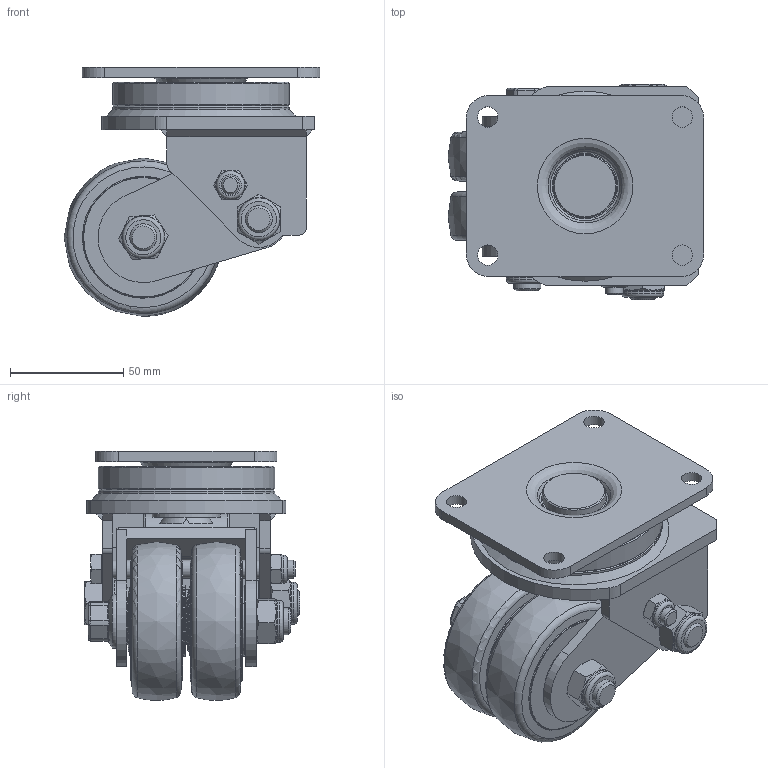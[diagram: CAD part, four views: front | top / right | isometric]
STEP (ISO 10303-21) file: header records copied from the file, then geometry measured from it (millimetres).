
FILE_DESCRIPTION(/* description */ (''),/* implementation_level */ '2;1');
FILE_NAME(/* name */ 'GASD-70-ASF-HUD v2.step',/* time_stamp */ '2023-11-20T11:36:40+09:00',/* author */ (''),/* organization */ (''),/* preprocessor_version */ 'ST-DEVELOPER v20',/* originating_system */ 'Autodesk Translation Framework v12.14.0.127',/* authorisation */ '');
FILE_SCHEMA (('AUTOMOTIVE_DESIGN { 1 0 10303 214 3 1 1 }'));
Length unit declared in the file: millimetre
Products named in the file (1): GASD-70-ASF-HUD
Bounding box: 113 x 95 x 110 mm (x, y, z)
Volume: 398685.8 mm3; surface area: 126622.7 mm2
Topology: 13 solids, 15 shells, 614 faces, 1344 edges, 831 vertices
Faces by surface type: plane 229, torus 141, cylinder 138, cone 88, bspline 18
Full cylindrical faces by diameter (mm): 4.917 x8, 7 x8, 8 x4, 9 x4, 10 x8, 11.63 x1, 12 x4, 12.5 x1, 14 x2, 18 x1, 18.2 x1, 18.5 x2, 19.9 x1, 20 x2, 20.2 x1, 21 x4, 28 x1, 29.4 x8, 30 x9, 31 x4, 31.6 x4, 35 x4, 45 x1, 52 x2, 78 x3
Entity records: 18807 total; most frequent: CARTESIAN_POINT 4372, DIRECTION 3102, ORIENTED_EDGE 2688, EDGE_CURVE 1344, AXIS2_PLACEMENT_3D 1317, VERTEX_POINT 831, EDGE_LOOP 745, CIRCLE 712
